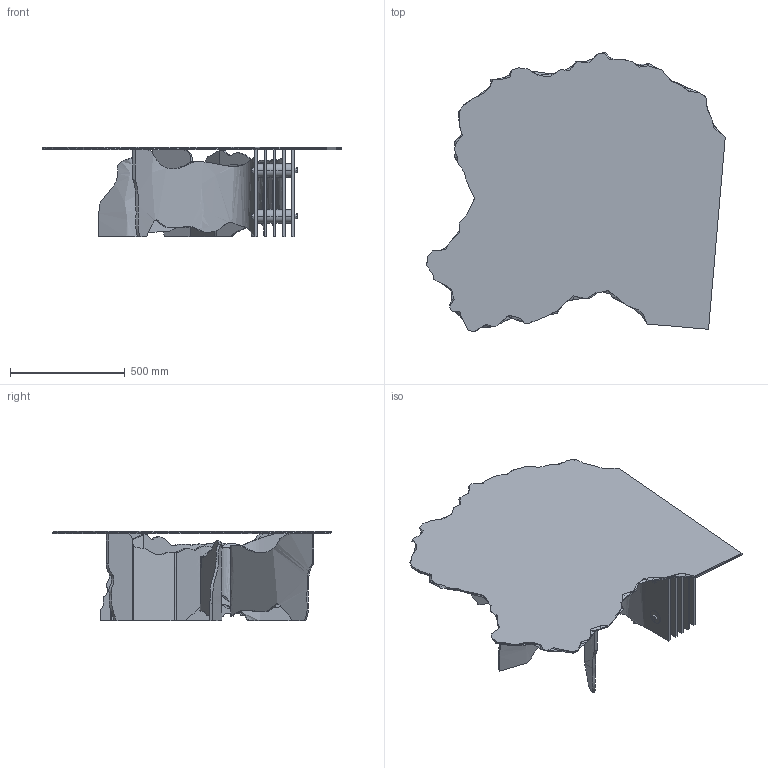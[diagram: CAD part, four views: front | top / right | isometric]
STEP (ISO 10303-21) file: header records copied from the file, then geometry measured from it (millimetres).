
FILE_DESCRIPTION(/* description */ (''),/* implementation_level */ '2;1');
FILE_NAME(/* name */ '051 - Shell 125x125',/* time_stamp */ '2010-11-03T15:22:03+01:00',/* author */ (''),/* organization */ (''),/* preprocessor_version */ 'ST-DEVELOPER v10',/* originating_system */ '',/* authorisation */ '');
FILE_SCHEMA (('CONFIG_CONTROL_DESIGN'));
Length unit declared in the file: centimetre
Products named in the file (1): 1
Bounding box: 1302.16 x 1220 x 392 mm (x, y, z)
Volume: 32033590.6 mm3; surface area: 5616585.7 mm2
Topology: 23 solids, 23 shells, 411 faces, 953 edges, 564 vertices
Faces by surface type: bspline 333, plane 78
Entity records: 17520 total; most frequent: CARTESIAN_POINT 12215, ORIENTED_EDGE 1858, EDGE_CURVE 929, VERTEX_POINT 564, ADVANCED_FACE 411, FACE_OUTER_BOUND 411, EDGE_LOOP 411, B_SPLINE_CURVE_WITH_KNOTS 304
